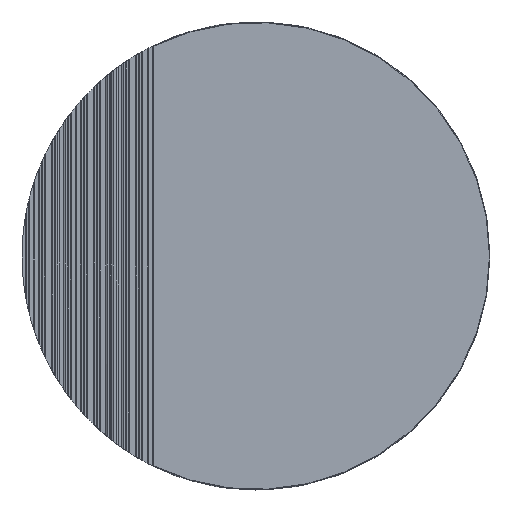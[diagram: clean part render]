
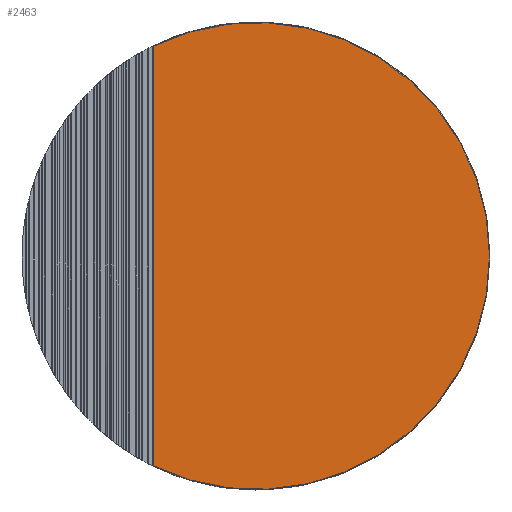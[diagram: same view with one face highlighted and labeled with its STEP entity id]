
A CAD part, top view. The second image highlights one B-rep face of the part: STEP entity #2463.
In plain terms, the highlighted planar face has unit normal (0, 0, 1).
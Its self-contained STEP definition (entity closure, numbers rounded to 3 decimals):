
#566 = EDGE_CURVE ( 'NONE', #7861, #3354, #3287, .T. ) ;
#967 = ORIENTED_EDGE ( 'NONE', *, *, #566, .T. ) ;
#1228 = EDGE_LOOP ( 'NONE', ( #967, #5977 ) ) ;
#1368 = DIRECTION ( 'NONE',  ( 0., -1., 0. ) ) ;
#1521 = AXIS2_PLACEMENT_3D ( 'NONE', #10124, #6781, #5079 ) ;
#2463 = ADVANCED_FACE ( 'NONE', ( #9283 ), #5169, .T. ) ;
#2966 = AXIS2_PLACEMENT_3D ( 'NONE', #4294, #9231, #6772 ) ;
#3287 = CIRCLE ( 'NONE', #1521, 449. ) ;
#3354 = VERTEX_POINT ( 'NONE', #4726 ) ;
#3573 = VECTOR ( 'NONE', #1368, 1000. ) ;
#3657 = EDGE_CURVE ( 'NONE', #3354, #7861, #10582, .T. ) ;
#4294 = CARTESIAN_POINT ( 'NONE',  ( 0., 0., 25. ) ) ;
#4726 = CARTESIAN_POINT ( 'NONE',  ( -197.5, 403.23, 25. ) ) ;
#5079 = DIRECTION ( 'NONE',  ( 1., 0., 0. ) ) ;
#5169 = PLANE ( 'NONE',  #2966 ) ;
#5554 = CARTESIAN_POINT ( 'NONE',  ( -197.5, -403.854, 25. ) ) ;
#5977 = ORIENTED_EDGE ( 'NONE', *, *, #3657, .T. ) ;
#6772 = DIRECTION ( 'NONE',  ( 1., 0., 0. ) ) ;
#6781 = DIRECTION ( 'NONE',  ( 0., 0., 1. ) ) ;
#7518 = CARTESIAN_POINT ( 'NONE',  ( -197.5, -403.23, 25. ) ) ;
#7861 = VERTEX_POINT ( 'NONE', #7518 ) ;
#9231 = DIRECTION ( 'NONE',  ( 0., 0., 1. ) ) ;
#9283 = FACE_OUTER_BOUND ( 'NONE', #1228, .T. ) ;
#10124 = CARTESIAN_POINT ( 'NONE',  ( 0., 0., 25. ) ) ;
#10582 = LINE ( 'NONE', #5554, #3573 ) ;
